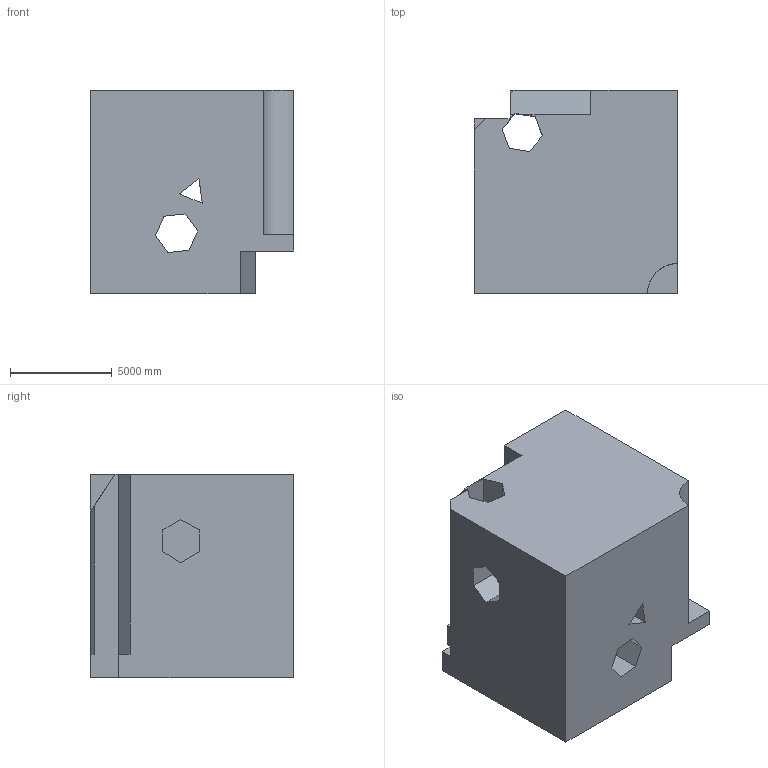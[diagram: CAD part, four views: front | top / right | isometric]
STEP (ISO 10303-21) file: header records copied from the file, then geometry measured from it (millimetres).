
FILE_DESCRIPTION (( 'STEP AP203' ), '1' );
FILE_NAME ('1932.STEP', '2022-08-23T09:38:15', ( 'user' ), ( '' ), 'SwSTEP 2.0', 'SolidWorks 2021', '' );
FILE_SCHEMA (( 'CONFIG_CONTROL_DESIGN' ));
Length unit declared in the file: centimetre
Products named in the file (1): 1932
Bounding box: 10000 x 10000 x 10000 mm (x, y, z)
Volume: 820754364954.1 mm3; surface area: 766743637.1 mm2
Topology: 1 solids, 1 shells, 45 faces, 141 edges, 94 vertices
Faces by surface type: plane 44, cylinder 1
Entity records: 1634 total; most frequent: ORIENTED_EDGE 282, CARTESIAN_POINT 281, DIRECTION 235, EDGE_CURVE 141, LINE 139, VECTOR 139, VERTEX_POINT 94, EDGE_LOOP 51
